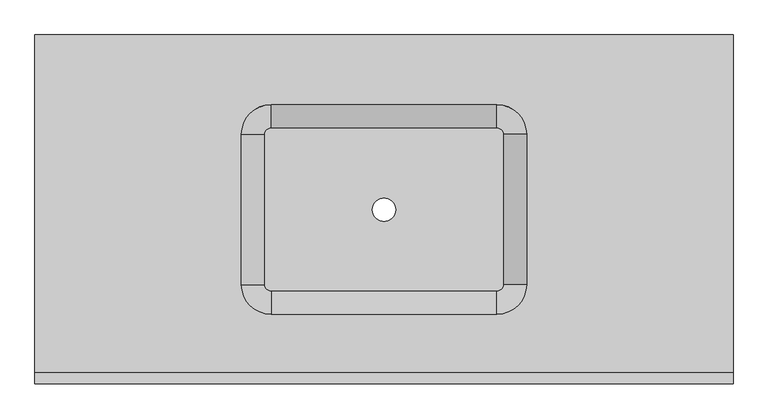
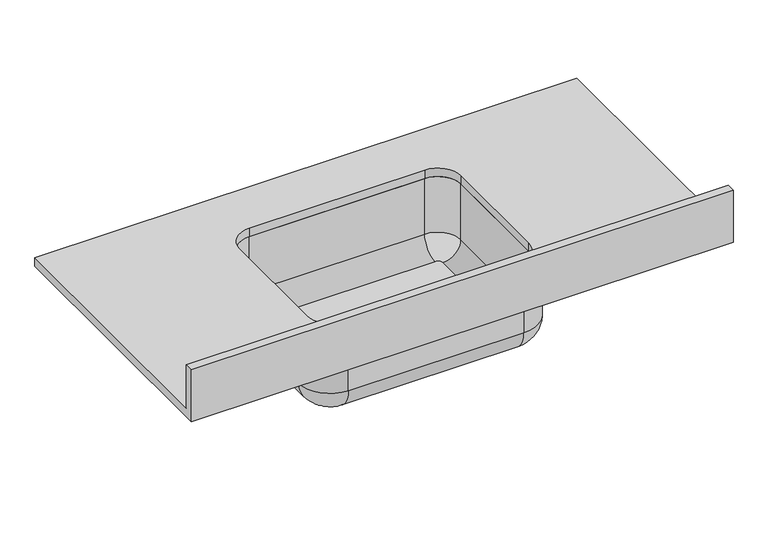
"""IFC4 building model written with IfcOpenShell, lengths in millimetres: furniture geometry, Tampo de Bancada com Cuba : Granilite 60cm."""

from ifc_helpers import new_model, si_unit, point, frame, origin, place, context, project, spatial, polyline, circle_curve, ellipse_curve, trimmed, source, transform, mapped, element, save
from ifc_brep_helpers import plane_surface, cylinder_surface, revolved_surface, advanced_brep


def furniture_3bfc2c75(model_context):
    return source(origin(), model_context, "Body", "AdvancedBrep", [
        advanced_brep(
        [(-406.2622951, 100.0, 880.0), (-335.4622951, 170.8, 880.0), (-335.4622951, 429.2, 880.0), (-406.2622951, 500.0, 880.0), (-794.6622951, 500.0, 880.0), (-865.4622951, 429.2, 880.0), (-865.4622951, 170.8, 880.0), (-794.6622951, 100.0, 880.0), (-406.2622951, 120.0, 880.0), (-794.6622951, 120.0, 880.0), (-845.4622951, 170.8, 880.0), (-845.4622951, 429.2, 880.0), (-794.6622951, 480.0, 880.0), (-406.2622951, 480.0, 880.0), (-355.4622951, 429.2, 880.0), (-355.4622951, 170.8, 880.0), (-355.4622951, 170.8, 750.0), (-406.2622951, 120.0, 750.0), (-355.4622951, 429.2, 750.0), (-406.2622951, 480.0, 750.0), (-794.6622951, 480.0, 750.0), (-845.4622951, 429.2, 750.0), (-845.4622951, 170.8, 750.0), (-794.6622951, 120.0, 750.0), (-794.6622951, 100.0, 750.0), (-406.2622951, 100.0, 750.0), (-865.4622951, 170.8, 750.0), (-865.4622951, 429.2, 750.0), (-794.6622951, 500.0, 750.0), (-406.2622951, 500.0, 750.0), (-335.4622951, 429.2, 750.0), (-335.4622951, 170.8, 750.0), (-395.4622951, 170.8, 710.0), (-395.4622951, 429.2, 710.0), (-406.2622951, 440.0, 710.0), (-794.6622951, 440.0, 710.0), (-805.4622951, 429.2, 710.0), (-805.4622951, 170.8, 710.0), (-794.6622951, 160.0, 710.0), (-406.2622951, 160.0, 710.0), (-620.4622951, 299.5288603, 710.0), (-580.4622951, 299.5288603, 710.0), (-406.2622951, 160.0, 690.0), (-794.6622951, 160.0, 690.0), (-805.4622951, 170.8, 690.0), (-805.4622951, 429.2, 690.0), (-794.6622951, 440.0, 690.0), (-406.2622951, 440.0, 690.0), (-395.4622951, 429.2, 690.0), (-395.4622951, 170.8, 690.0), (-620.4622951, 299.5288603, 690.0), (-580.4622951, 299.5288603, 690.0)],
        [
            (0, 1, circle_curve(frame((-406.2622951, 170.8, 880.0), z_axis=(0.0, 0.0, 1.0), x_axis=(1.0, 0.0, 0.0)), 70.8)),
            (1, 2),
            (2, 3, circle_curve(frame((-406.2622951, 429.2, 880.0), z_axis=(0.0, 0.0, 1.0), x_axis=(1.0, 0.0, 0.0)), 70.8)),
            (3, 4),
            (4, 5, circle_curve(frame((-794.6622951, 429.2, 880.0), z_axis=(0.0, 0.0, 1.0), x_axis=(1.0, 0.0, 0.0)), 70.8)),
            (5, 6),
            (6, 7, circle_curve(frame((-794.6622951, 170.8, 880.0), z_axis=(0.0, 0.0, 1.0), x_axis=(1.0, 0.0, 0.0)), 70.8)),
            (7, 0),
            (8, 9),
            (9, 10, circle_curve(frame((-794.6622951, 170.8, 880.0), z_axis=(0.0, 0.0, -1.0), x_axis=(1.0, 0.0, 0.0)), 50.8)),
            (10, 11),
            (11, 12, circle_curve(frame((-794.6622951, 429.2, 880.0), z_axis=(0.0, 0.0, -1.0), x_axis=(1.0, 0.0, 0.0)), 50.8)),
            (12, 13),
            (13, 14, circle_curve(frame((-406.2622951, 429.2, 880.0), z_axis=(0.0, 0.0, -1.0), x_axis=(1.0, 0.0, 0.0)), 50.8)),
            (14, 15),
            (15, 8, circle_curve(frame((-406.2622951, 170.8, 880.0), z_axis=(0.0, 0.0, -1.0), x_axis=(1.0, 0.0, 0.0)), 50.8)),
            (15, 16),
            (16, 17, circle_curve(frame((-406.2622951, 170.8, 750.0), z_axis=(0.0, 0.0, -1.0), x_axis=(1.0, 0.0, 0.0)), 50.8)),
            (17, 8),
            (14, 18),
            (18, 16),
            (13, 19),
            (19, 18, circle_curve(frame((-406.2622951, 429.2, 750.0), z_axis=(0.0, 0.0, -1.0), x_axis=(1.0, 0.0, 0.0)), 50.8)),
            (12, 20),
            (20, 19),
            (11, 21),
            (21, 20, circle_curve(frame((-794.6622951, 429.2, 750.0), z_axis=(0.0, 0.0, -1.0), x_axis=(1.0, 0.0, 0.0)), 50.8)),
            (10, 22),
            (22, 21),
            (9, 23),
            (23, 22, circle_curve(frame((-794.6622951, 170.8, 750.0), z_axis=(0.0, 0.0, -1.0), x_axis=(1.0, 0.0, 0.0)), 50.8)),
            (17, 23),
            (7, 24),
            (24, 25),
            (25, 0),
            (6, 26),
            (26, 24, circle_curve(frame((-794.6622951, 170.8, 750.0), z_axis=(0.0, 0.0, 1.0), x_axis=(1.0, 0.0, 0.0)), 70.8)),
            (5, 27),
            (27, 26),
            (4, 28),
            (28, 27, circle_curve(frame((-794.6622951, 429.2, 750.0), z_axis=(0.0, 0.0, 1.0), x_axis=(1.0, 0.0, 0.0)), 70.8)),
            (3, 29),
            (29, 28),
            (2, 30),
            (30, 29, circle_curve(frame((-406.2622951, 429.2, 750.0), z_axis=(0.0, 0.0, 1.0), x_axis=(1.0, 0.0, 0.0)), 70.8)),
            (1, 31),
            (31, 30),
            (25, 31, circle_curve(frame((-406.2622951, 170.8, 750.0), z_axis=(0.0, 0.0, 1.0), x_axis=(1.0, 0.0, 0.0)), 70.8)),
            (32, 33),
            (33, 34, circle_curve(frame((-406.2622951, 429.2, 710.0), z_axis=(0.0, 0.0, 1.0), x_axis=(1.0, 0.0, 0.0)), 10.8)),
            (34, 35),
            (35, 36, circle_curve(frame((-794.6622951, 429.2, 710.0), z_axis=(0.0, 0.0, 1.0), x_axis=(0.0, 1.0, 0.0)), 10.8)),
            (36, 37),
            (37, 38, circle_curve(frame((-794.6622951, 170.8, 710.0), z_axis=(0.0, 0.0, 1.0), x_axis=(-1.0, 0.0, 0.0)), 10.8)),
            (38, 39),
            (39, 32, circle_curve(frame((-406.2622951, 170.8, 710.0), z_axis=(0.0, 0.0, 1.0), x_axis=(0.0, -1.0, 0.0)), 10.8)),
            (40, 41, circle_curve(frame((-600.4622951, 299.5288603, 710.0), z_axis=(0.0, 0.0, -1.0), x_axis=(1.0, 0.0, 0.0)), 20.0)),
            (41, 40, circle_curve(frame((-600.4622951, 299.5288603, 710.0), z_axis=(0.0, 0.0, -1.0), x_axis=(1.0, 0.0, 0.0)), 20.0)),
            (42, 43),
            (43, 44, circle_curve(frame((-794.6622951, 170.8, 690.0), z_axis=(0.0, 0.0, -1.0), x_axis=(-1.0, 0.0, 0.0)), 10.8)),
            (44, 45),
            (45, 46, circle_curve(frame((-794.6622951, 429.2, 690.0), z_axis=(0.0, 0.0, -1.0), x_axis=(0.0, 1.0, 0.0)), 10.8)),
            (46, 47),
            (47, 48, circle_curve(frame((-406.2622951, 429.2, 690.0), z_axis=(0.0, 0.0, -1.0), x_axis=(1.0, 0.0, 0.0)), 10.8)),
            (48, 49),
            (49, 42, circle_curve(frame((-406.2622951, 170.8, 690.0), z_axis=(0.0, 0.0, -1.0), x_axis=(0.0, -1.0, 0.0)), 10.8)),
            (50, 51, circle_curve(frame((-600.4622951, 299.5288603, 690.0), z_axis=(0.0, 0.0, 1.0), x_axis=(1.0, 0.0, 0.0)), 20.0)),
            (51, 50, circle_curve(frame((-600.4622951, 299.5288603, 690.0), z_axis=(0.0, 0.0, 1.0), x_axis=(1.0, 0.0, 0.0)), 20.0)),
            (41, 51),
            (50, 40),
            (49, 31, circle_curve(frame((-395.4622951, 170.8, 750.0), z_axis=(0.0, -1.0, 0.0), x_axis=(1.0, 0.0, 0.0)), 60.0)),
            (25, 42, circle_curve(frame((-406.2622951, 160.0, 750.0), z_axis=(1.0, 0.0, 0.0), x_axis=(0.0, -1.0, 0.0)), 60.0)),
            (16, 32, circle_curve(frame((-395.4622951, 170.8, 750.0), z_axis=(0.0, 1.0, 0.0), x_axis=(1.0, 0.0, 0.0)), 40.0)),
            (39, 17, circle_curve(frame((-406.2622951, 160.0, 750.0), z_axis=(-1.0, 0.0, 0.0), x_axis=(0.0, -1.0, 0.0)), 40.0)),
            (48, 30, circle_curve(frame((-395.4622951, 429.2, 750.0), z_axis=(0.0, -1.0, 0.0), x_axis=(1.0, 0.0, 0.0)), 60.0)),
            (18, 33, circle_curve(frame((-395.4622951, 429.2, 750.0), z_axis=(0.0, 1.0, 0.0), x_axis=(1.0, 0.0, 0.0)), 40.0)),
            (47, 29, circle_curve(frame((-406.2622951, 440.0, 750.0), z_axis=(1.0, 0.0, 0.0), x_axis=(0.0, 1.0, 0.0)), 60.0)),
            (19, 34, circle_curve(frame((-406.2622951, 440.0, 750.0), z_axis=(-1.0, 0.0, 0.0), x_axis=(0.0, 1.0, 0.0)), 40.0)),
            (46, 28, circle_curve(frame((-794.6622951, 440.0, 750.0), z_axis=(1.0, 0.0, 0.0), x_axis=(0.0, 1.0, 0.0)), 60.0)),
            (20, 35, circle_curve(frame((-794.6622951, 440.0, 750.0), z_axis=(-1.0, 0.0, 0.0), x_axis=(0.0, 1.0, 0.0)), 40.0)),
            (45, 27, circle_curve(frame((-805.4622951, 429.2, 750.0), z_axis=(0.0, 1.0, 0.0), x_axis=(-1.0, 0.0, 0.0)), 60.0)),
            (21, 36, circle_curve(frame((-805.4622951, 429.2, 750.0), z_axis=(0.0, -1.0, 0.0), x_axis=(-1.0, 0.0, 0.0)), 40.0)),
            (44, 26, circle_curve(frame((-805.4622951, 170.8, 750.0), z_axis=(0.0, 1.0, 0.0), x_axis=(-1.0, 0.0, 0.0)), 60.0)),
            (22, 37, circle_curve(frame((-805.4622951, 170.8, 750.0), z_axis=(0.0, -1.0, 0.0), x_axis=(-1.0, 0.0, 0.0)), 40.0)),
            (43, 24, circle_curve(frame((-794.6622951, 160.0, 750.0), z_axis=(-1.0, 0.0, 0.0), x_axis=(0.0, -1.0, 0.0)), 60.0)),
            (23, 38, circle_curve(frame((-794.6622951, 160.0, 750.0), z_axis=(1.0, 0.0, 0.0), x_axis=(0.0, -1.0, 0.0)), 40.0)),
        ],
        [
            plane_surface(frame((-355.4622951, 170.8, 880.0), z_axis=(0.0, 0.0, 1.0), x_axis=(0.0, 1.0, 0.0))),
            revolved_surface(polyline([(-355.4622951, 170.8, 750.0), (-355.4622951, 170.8, 880.0)]), (-406.2622951, 170.8, 750.0), (0.0, 0.0, -1.0)),
            plane_surface(frame((-355.4622951, 170.8, 880.0), z_axis=(-1.0, 0.0, 0.0), x_axis=(0.0, 0.0, -1.0))),
            revolved_surface(polyline([(-355.4622951, 429.2, 750.0), (-355.4622951, 429.2, 880.0)]), (-406.2622951, 429.2, 750.0), (0.0, 0.0, -1.0)),
            plane_surface(frame((-406.2622951, 480.0, 880.0), z_axis=(0.0, -1.0, 0.0), x_axis=(0.0, 0.0, -1.0))),
            revolved_surface(polyline([(-743.8622951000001, 429.2, 750.0), (-743.8622951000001, 429.2, 880.0)]), (-794.6622951, 429.2, 750.0), (0.0, 0.0, -1.0)),
            plane_surface(frame((-845.4622951, 429.2, 880.0), z_axis=(1.0, 0.0, 0.0), x_axis=(0.0, 0.0, -1.0))),
            revolved_surface(polyline([(-743.8622951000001, 170.8, 750.0), (-743.8622951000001, 170.8, 880.0)]), (-794.6622951, 170.8, 750.0), (0.0, 0.0, -1.0)),
            plane_surface(frame((-794.6622951, 120.0, 880.0), z_axis=(0.0, 1.0, 0.0), x_axis=(0.0, 0.0, -1.0))),
            plane_surface(frame((-406.2622951, 100.0, 880.0), z_axis=(0.0, -1.0, 0.0), x_axis=(0.0, 0.0, -1.0))),
            cylinder_surface(frame((-794.6622951, 170.8, 0.0), z_axis=(0.0, 0.0, 1.0), x_axis=(1.0, 0.0, 0.0)), 70.8),
            plane_surface(frame((-865.4622951, 170.8, 880.0), z_axis=(-1.0, 0.0, 0.0), x_axis=(0.0, 0.0, -1.0))),
            cylinder_surface(frame((-794.6622951, 429.2, 0.0), z_axis=(0.0, 0.0, 1.0), x_axis=(1.0, 0.0, 0.0)), 70.8),
            plane_surface(frame((-794.6622951, 500.0, 880.0), z_axis=(0.0, 1.0, 0.0), x_axis=(0.0, 0.0, -1.0))),
            cylinder_surface(frame((-406.2622951, 429.2, 0.0), z_axis=(0.0, 0.0, 1.0), x_axis=(1.0, 0.0, 0.0)), 70.8),
            plane_surface(frame((-335.4622951, 429.2, 880.0), z_axis=(1.0, 0.0, 0.0), x_axis=(0.0, 0.0, -1.0))),
            cylinder_surface(frame((-406.2622951, 170.8, 0.0), z_axis=(0.0, 0.0, 1.0), x_axis=(1.0, 0.0, 0.0)), 70.8),
            plane_surface(frame((-794.6622951, 160.0, 710.0), z_axis=(0.0, 0.0, 1.0), x_axis=(-1.0, 0.0, 0.0))),
            plane_surface(frame((-794.6622951, 160.0, 690.0), z_axis=(0.0, 0.0, -1.0), x_axis=(1.0, 0.0, 0.0))),
            revolved_surface(polyline([(-580.4622951, 299.5288603, 690.0), (-580.4622951, 299.5288603, 710.0)]), (-600.4622951, 299.5288603, 0.0), (0.0, 0.0, -1.0)),
            revolved_surface(trimmed(ellipse_curve(frame((-406.2622951, 160.0, 750.0), z_axis=(1.0, 0.0, 0.0), x_axis=(0.0, -1.0, 0.0)), 60.0, 60.0), [point((-406.2622951, 100.0, 750.0))], [point((-406.2622951, 160.0, 690.0))], True, "CARTESIAN"), (-406.2622951, 170.8, 0.0), (0.0, 0.0, -1.0)),
            revolved_surface(trimmed(ellipse_curve(frame((-406.2622951, 160.0, 750.0), z_axis=(-1.0, 0.0, 0.0), x_axis=(0.0, -1.0, 0.0)), 40.0, 40.0), [point((-406.2622951, 160.0, 710.0))], [point((-406.2622951, 120.0, 750.0))], True, "CARTESIAN"), (-406.2622951, 170.8, 0.0), (0.0, 0.0, -1.0)),
            cylinder_surface(frame((-395.4622951, 170.8, 750.0), z_axis=(0.0, -1.0, 0.0), x_axis=(1.0, 0.0, 0.0)), 60.0),
            revolved_surface(polyline([(-355.4622951, 429.2, 750.0), (-355.4622951, 170.8, 750.0)]), (-395.4622951, 170.8, 750.0), (0.0, 1.0, 0.0)),
            revolved_surface(trimmed(ellipse_curve(frame((-395.4622951, 429.2, 750.0), z_axis=(0.0, 1.0, 0.0), x_axis=(1.0, 0.0, 0.0)), 60.0, 60.0), [point((-335.4622951, 429.2, 750.0))], [point((-395.4622951, 429.2, 690.0))], True, "CARTESIAN"), (-406.2622951, 429.2, 0.0), (0.0, 0.0, -1.0)),
            revolved_surface(trimmed(ellipse_curve(frame((-395.4622951, 429.2, 750.0), z_axis=(0.0, -1.0, 0.0), x_axis=(1.0, 0.0, 0.0)), 40.0, 40.0), [point((-395.4622951, 429.2, 710.0))], [point((-355.4622951, 429.2, 750.0))], True, "CARTESIAN"), (-406.2622951, 429.2, 0.0), (0.0, 0.0, -1.0)),
            cylinder_surface(frame((-406.2622951, 440.0, 750.0), z_axis=(1.0, 0.0, 0.0), x_axis=(0.0, 1.0, 0.0)), 60.0),
            revolved_surface(polyline([(-794.6622951, 480.0, 750.0), (-406.2622951, 480.0, 750.0)]), (-406.2622951, 440.0, 750.0), (-1.0, 0.0, 0.0)),
            revolved_surface(trimmed(ellipse_curve(frame((-794.6622951, 440.0, 750.0), z_axis=(-1.0, 0.0, 0.0), x_axis=(0.0, 1.0, 0.0)), 60.0, 60.0), [point((-794.6622951, 500.0, 750.0))], [point((-794.6622951, 440.0, 690.0))], True, "CARTESIAN"), (-794.6622951, 429.2, 0.0), (0.0, 0.0, -1.0)),
            revolved_surface(trimmed(ellipse_curve(frame((-794.6622951, 440.0, 750.0), z_axis=(1.0, 0.0, 0.0), x_axis=(0.0, 1.0, 0.0)), 40.0, 40.0), [point((-794.6622951, 440.0, 710.0))], [point((-794.6622951, 480.0, 750.0))], True, "CARTESIAN"), (-794.6622951, 429.2, 0.0), (0.0, 0.0, -1.0)),
            cylinder_surface(frame((-805.4622951, 429.2, 750.0), z_axis=(0.0, 1.0, 0.0), x_axis=(-1.0, 0.0, 0.0)), 60.0),
            revolved_surface(polyline([(-845.4622951, 170.8, 750.0), (-845.4622951, 429.2, 750.0)]), (-805.4622951, 429.2, 750.0), (0.0, -1.0, 0.0)),
            revolved_surface(trimmed(ellipse_curve(frame((-805.4622951, 170.8, 750.0), z_axis=(0.0, -1.0, 0.0), x_axis=(-1.0, 0.0, 0.0)), 60.0, 60.0), [point((-865.4622951, 170.8, 750.0))], [point((-805.4622951, 170.8, 690.0))], True, "CARTESIAN"), (-794.6622951, 170.8, 0.0), (0.0, 0.0, -1.0)),
            revolved_surface(trimmed(ellipse_curve(frame((-805.4622951, 170.8, 750.0), z_axis=(0.0, 1.0, 0.0), x_axis=(-1.0, 0.0, 0.0)), 40.0, 40.0), [point((-805.4622951, 170.8, 710.0))], [point((-845.4622951, 170.8, 750.0))], True, "CARTESIAN"), (-794.6622951, 170.8, 0.0), (0.0, 0.0, -1.0)),
            cylinder_surface(frame((-794.6622951, 160.0, 750.0), z_axis=(-1.0, 0.0, 0.0), x_axis=(0.0, -1.0, 0.0)), 60.0),
            revolved_surface(polyline([(-406.2622951, 120.0, 750.0), (-794.6622951, 120.0, 750.0)]), (-794.6622951, 160.0, 750.0), (1.0, 0.0, 0.0)),
        ],
        [
            (0, [[1, 2, 3, 4, 5, 6, 7, 8], [9, 10, 11, 12, 13, 14, 15, 16]]),
            (1, [[17, 18, 19, -16]]),
            (2, [[20, 21, -17, -15]]),
            (3, [[22, 23, -20, -14]]),
            (4, [[24, 25, -22, -13]]),
            (5, [[26, 27, -24, -12]]),
            (6, [[28, 29, -26, -11]]),
            (7, [[30, 31, -28, -10]]),
            (8, [[-19, 32, -30, -9]]),
            (9, [[33, 34, 35, -8]]),
            (10, [[36, 37, -33, -7]]),
            (11, [[38, 39, -36, -6]]),
            (12, [[40, 41, -38, -5]]),
            (13, [[42, 43, -40, -4]]),
            (14, [[44, 45, -42, -3]]),
            (15, [[46, 47, -44, -2]]),
            (16, [[-35, 48, -46, -1]]),
            (17, [[49, 50, 51, 52, 53, 54, 55, 56], [57, 58]]),
            (18, [[59, 60, 61, 62, 63, 64, 65, 66], [67, 68]]),
            (19, [[69, -67, 70, -58]]),
            (19, [[-70, -68, -69, -57]]),
            (20, [[-66, 71, -48, 72]]),
            (21, [[-18, 73, -56, 74]]),
            (22, [[-65, 75, -47, -71]]),
            (23, [[-21, 76, -49, -73]]),
            (24, [[-64, 77, -45, -75]]),
            (25, [[-23, 78, -50, -76]]),
            (26, [[-63, 79, -43, -77]]),
            (27, [[-25, 80, -51, -78]]),
            (28, [[-62, 81, -41, -79]]),
            (29, [[-27, 82, -52, -80]]),
            (30, [[-61, 83, -39, -81]]),
            (31, [[-29, 84, -53, -82]]),
            (32, [[-60, 85, -37, -83]]),
            (33, [[-31, 86, -54, -84]]),
            (34, [[-34, -85, -59, -72]]),
            (35, [[-55, -86, -32, -74]]),
        ],
    ),
        advanced_brep(
        [(-1200.4622951, 600.0, 900.0), (-1200.4622951, 19.05, 900.0), (-0.4622951, 19.05, 900.0), (-0.4622951, 600.0, 900.0), (-794.6622951, 120.0, 900.0), (-845.4622951, 170.8, 900.0), (-845.4622951, 429.2, 900.0), (-794.6622951, 480.0, 900.0), (-406.2622951, 480.0, 900.0), (-355.4622951, 429.2, 900.0), (-355.4622951, 170.8, 900.0), (-406.2622951, 120.0, 900.0), (-0.4622951, 0.0, 880.0), (-1200.4622951, 0.0, 880.0), (-1200.4622951, 600.0, 880.0), (-0.4622951, 600.0, 880.0), (-406.2622951, 120.0, 880.0), (-355.4622951, 170.8, 880.0), (-355.4622951, 429.2, 880.0), (-406.2622951, 480.0, 880.0), (-794.6622951, 480.0, 880.0), (-845.4622951, 429.2, 880.0), (-845.4622951, 170.8, 880.0), (-794.6622951, 120.0, 880.0), (-0.4622951, 0.0, 1001.6), (-1200.4622951, 0.0, 1001.6), (-1200.4622951, 19.05, 1001.6), (-0.4622951, 19.05, 1001.6)],
        [
            (0, 1),
            (1, 2),
            (2, 3),
            (3, 0),
            (4, 5, circle_curve(frame((-794.6622951, 170.8, 900.0), z_axis=(0.0, 0.0, -1.0), x_axis=(1.0, 0.0, 0.0)), 50.8)),
            (5, 6),
            (6, 7, circle_curve(frame((-794.6622951, 429.2, 900.0), z_axis=(0.0, 0.0, -1.0), x_axis=(1.0, 0.0, 0.0)), 50.8)),
            (7, 8),
            (8, 9, circle_curve(frame((-406.2622951, 429.2, 900.0), z_axis=(0.0, 0.0, -1.0), x_axis=(1.0, 0.0, 0.0)), 50.8)),
            (9, 10),
            (10, 11, circle_curve(frame((-406.2622951, 170.8, 900.0), z_axis=(0.0, 0.0, -1.0), x_axis=(1.0, 0.0, 0.0)), 50.8)),
            (11, 4),
            (12, 13),
            (13, 14),
            (14, 15),
            (15, 12),
            (16, 17, circle_curve(frame((-406.2622951, 170.8, 880.0), z_axis=(0.0, 0.0, 1.0), x_axis=(1.0, 0.0, 0.0)), 50.8)),
            (17, 18),
            (18, 19, circle_curve(frame((-406.2622951, 429.2, 880.0), z_axis=(0.0, 0.0, 1.0), x_axis=(1.0, 0.0, 0.0)), 50.8)),
            (19, 20),
            (20, 21, circle_curve(frame((-794.6622951, 429.2, 880.0), z_axis=(0.0, 0.0, 1.0), x_axis=(1.0, 0.0, 0.0)), 50.8)),
            (21, 22),
            (22, 23, circle_curve(frame((-794.6622951, 170.8, 880.0), z_axis=(0.0, 0.0, 1.0), x_axis=(1.0, 0.0, 0.0)), 50.8)),
            (23, 16),
            (12, 24),
            (24, 25),
            (25, 13),
            (25, 26),
            (26, 1),
            (0, 14),
            (3, 15),
            (2, 27),
            (27, 24),
            (27, 26),
            (11, 16),
            (23, 4),
            (22, 5),
            (21, 6),
            (20, 7),
            (19, 8),
            (18, 9),
            (17, 10),
        ],
        [
            plane_surface(frame((-1200.4622951, 0.0, 900.0), z_axis=(0.0, 0.0, 1.0), x_axis=(-1.0, 0.0, 0.0))),
            plane_surface(frame((-1200.4622951, 0.0, 880.0), z_axis=(0.0, 0.0, -1.0), x_axis=(1.0, 0.0, 0.0))),
            plane_surface(frame((-0.4622951, 0.0, 900.0), z_axis=(0.0, -1.0, 0.0), x_axis=(0.0, 0.0, -1.0))),
            plane_surface(frame((-1200.4622951, 0.0, 900.0), z_axis=(-1.0, 0.0, 0.0), x_axis=(0.0, 0.0, -1.0))),
            plane_surface(frame((-1200.4622951, 600.0, 900.0), z_axis=(0.0, 1.0, 0.0), x_axis=(0.0, 0.0, -1.0))),
            plane_surface(frame((-0.4622951, 600.0, 900.0), z_axis=(1.0, 0.0, 0.0), x_axis=(0.0, 0.0, -1.0))),
            plane_surface(frame((-1200.4622951, 0.0, 1001.6), z_axis=(0.0, 0.0, 1.0), x_axis=(0.0, 1.0, 0.0))),
            plane_surface(frame((-1200.4622951, 19.05, 1001.6), z_axis=(0.0, 1.0, 0.0), x_axis=(0.0, 0.0, -1.0))),
            plane_surface(frame((-406.2622951, 120.0, 900.0), z_axis=(0.0, 1.0, 0.0), x_axis=(0.0, 0.0, -1.0))),
            revolved_surface(polyline([(-743.8622951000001, 170.8, 900.0), (-743.8622951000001, 170.8, 880.0)]), (-794.6622951, 170.8, 880.0), (0.0, 0.0, 1.0)),
            plane_surface(frame((-845.4622951, 170.8, 900.0), z_axis=(1.0, 0.0, 0.0), x_axis=(0.0, 0.0, -1.0))),
            revolved_surface(polyline([(-743.8622951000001, 429.2, 900.0), (-743.8622951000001, 429.2, 880.0)]), (-794.6622951, 429.2, 880.0), (0.0, 0.0, 1.0)),
            plane_surface(frame((-794.6622951, 480.0, 900.0), z_axis=(0.0, -1.0, 0.0), x_axis=(0.0, 0.0, -1.0))),
            revolved_surface(polyline([(-355.4622951, 429.2, 900.0), (-355.4622951, 429.2, 880.0)]), (-406.2622951, 429.2, 880.0), (0.0, 0.0, 1.0)),
            plane_surface(frame((-355.4622951, 429.2, 900.0), z_axis=(-1.0, 0.0, 0.0), x_axis=(0.0, 0.0, -1.0))),
            revolved_surface(polyline([(-355.4622951, 170.8, 900.0), (-355.4622951, 170.8, 880.0)]), (-406.2622951, 170.8, 880.0), (0.0, 0.0, 1.0)),
        ],
        [
            (0, [[1, 2, 3, 4], [5, 6, 7, 8, 9, 10, 11, 12]]),
            (1, [[13, 14, 15, 16], [17, 18, 19, 20, 21, 22, 23, 24]]),
            (2, [[25, 26, 27, -13]]),
            (3, [[-27, 28, 29, -1, 30, -14]]),
            (4, [[31, -15, -30, -4]]),
            (5, [[-31, -3, 32, 33, -25, -16]]),
            (6, [[-26, -33, 34, -28]]),
            (7, [[-32, -2, -29, -34]]),
            (8, [[-12, 35, -24, 36]]),
            (9, [[-23, 37, -5, -36]]),
            (10, [[-22, 38, -6, -37]]),
            (11, [[-21, 39, -7, -38]]),
            (12, [[-20, 40, -8, -39]]),
            (13, [[-19, 41, -9, -40]]),
            (14, [[-18, 42, -10, -41]]),
            (15, [[-11, -42, -17, -35]]),
        ],
    ),
    ])


if __name__ == "__main__":
    model = new_model("IFC4")
    model_context = context("Model", 3, world=origin())
    ifc_project = project(units=[si_unit("LENGTHUNIT", "METRE", prefix="MILLI")], contexts=[model_context])
    site = spatial("IfcSite", under=ifc_project)
    building = spatial("IfcBuilding", under=site)
    placement = place(None, origin())
    furniture_shape = furniture_3bfc2c75(model_context)
    element("IfcFurniture", 1, ObjectType="Tampo de Bancada com Cuba : Granilite 60cm", at=placement, inside=building, context=model_context, shape_type="MappedRepresentation", body=[
        mapped(furniture_shape, transform((0.0, 0.0, 0.0), x_axis=(1.0, 0.0, 0.0), y_axis=(0.0, 1.0, 0.0), z_axis=(0.0, 0.0, 1.0))),
    ])
    save(model, "model.ifc")
